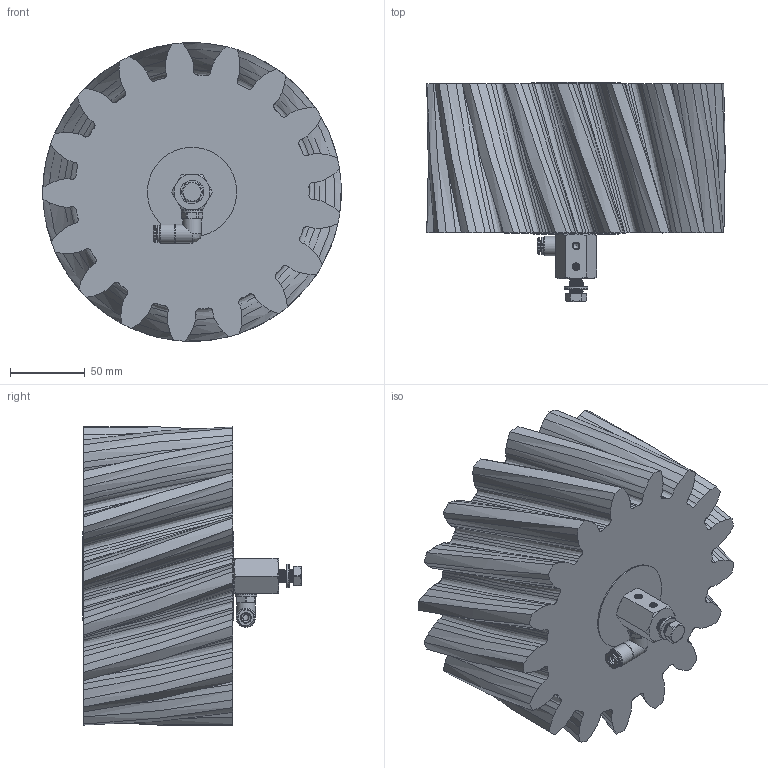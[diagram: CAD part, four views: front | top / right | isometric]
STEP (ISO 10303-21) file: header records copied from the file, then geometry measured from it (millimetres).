
FILE_DESCRIPTION (( 'STEP AP214' ), '1' );
FILE_NAME ('012_13_10_100_17BLZ.STEP', '2026-04-14T08:50:19', ( '' ), ( '' ), 'SwSTEP 2.0', 'SolidWorks 2022', '' );
FILE_SCHEMA (( 'AUTOMOTIVE_DESIGN' ));
Length unit declared in the file: millimetre
Products named in the file (13): 012_06_Senkschraube; Schraube_M8_20; U_Scheibe_8,4; Scheibe_hinten_winklige Achse_groß; Modul_10_S_L; RH202242; RIVOLUZIONE_0_2; 012_13_10_100_17BLZ; OR 7.2X1.9_1; 12012_06_01_Scheibe-CRS-VA_60.SLDASM; H202242_HDS022_6_M10X1_08.05.17(1); DR6-C_HDX_25.07.16_1; 012_13b_02_winklige_Achse_M10_1
Assembly tree (12 placements, depth 3):
  012_13_10_100_17BLZ
    012_13b_02_winklige_Achse_M10_1
    Schraube_M8_20
    U_Scheibe_8,4
    H202242_HDS022_6_M10X1_08.05.17(1)
      OR 7.2X1.9_1
      RH202242
      DR6-C_HDX_25.07.16_1
      RIVOLUZIONE_0_2
    12012_06_01_Scheibe-CRS-VA_60.SLDASM
    Scheibe_hinten_winklige Achse_groß
    012_06_Senkschraube
    Modul_10_S_L
Bounding box: 200.34 x 146.9 x 200.18 mm (x, y, z)
Volume: 2566017.5 mm3; surface area: 183957.8 mm2
Topology: 11 solids, 11 shells, 794 faces, 2184 edges, 1448 vertices
Faces by surface type: bspline 388, plane 276, cylinder 71, cone 56, torus 3
Full cylindrical faces by diameter (mm): 4 x3, 6 x1, 6.2 x1, 6.3 x1, 6.5 x1, 7.2 x1, 8.4 x1, 8.5 x1, 9 x10, 9.9 x1, 10 x2, 10.1 x2, 10.3 x1, 11.5 x1, 11.7 x1, 12.5 x2, 13 x1, 14.5 x1, 16 x1, 60 x2
Entity records: 93718 total; most frequent: CARTESIAN_POINT 75496, ORIENTED_EDGE 4070, DIRECTION 2365, EDGE_CURVE 2035, VERTEX_POINT 1382, VECTOR 1045, LINE 1045, EDGE_LOOP 913
